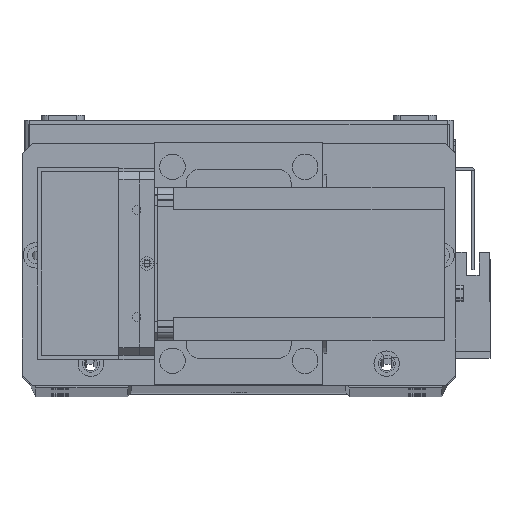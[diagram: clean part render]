
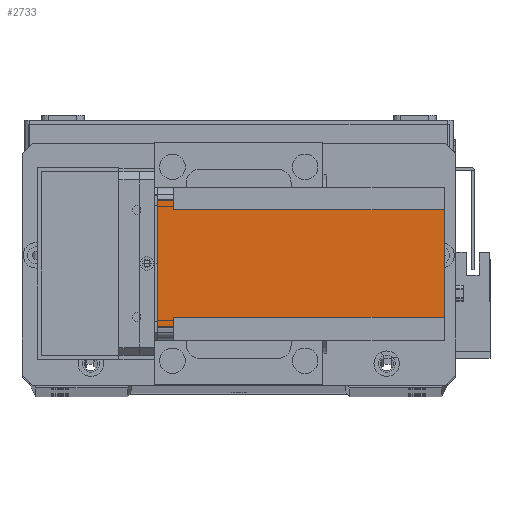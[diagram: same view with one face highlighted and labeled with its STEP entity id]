
A CAD part, top view. The second image highlights one B-rep face of the part: STEP entity #2733.
In plain terms, the highlighted planar face has unit normal (0, 0, 1) as drawn and (-1, 0, 0) by its records, which use the part's own axes.
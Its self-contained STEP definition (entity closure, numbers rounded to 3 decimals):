
#254 = VERTEX_POINT ( 'NONE', #2663 ) ;
#957 = ORIENTED_EDGE ( 'NONE', *, *, #25388, .T. ) ;
#1040 = VERTEX_POINT ( 'NONE', #31381 ) ;
#2053 = VECTOR ( 'NONE', #30379, 1000. ) ;
#2663 = CARTESIAN_POINT ( 'NONE',  ( 0., 5., -6.5 ) ) ;
#2733 = ADVANCED_FACE ( 'NONE', ( #21925 ), #19359, .T. ) ;
#2895 = CARTESIAN_POINT ( 'NONE',  ( 0., 51., -112.5 ) ) ;
#3967 = CARTESIAN_POINT ( 'NONE',  ( 0., 9., -112.5 ) ) ;
#4659 = VERTEX_POINT ( 'NONE', #26889 ) ;
#4739 = CARTESIAN_POINT ( 'NONE',  ( 0., 5., -112.5 ) ) ;
#5188 = LINE ( 'NONE', #23424, #23093 ) ;
#5243 = CARTESIAN_POINT ( 'NONE',  ( 0., 51., -112.5 ) ) ;
#5724 = EDGE_CURVE ( 'NONE', #8991, #15101, #12102, .T. ) ;
#5739 = ORIENTED_EDGE ( 'NONE', *, *, #29471, .T. ) ;
#6128 = CARTESIAN_POINT ( 'NONE',  ( 0., 51., -6.5 ) ) ;
#6863 = EDGE_LOOP ( 'NONE', ( #22458, #957, #7349, #5739, #14564, #26001, #7919, #25024 ) ) ;
#7054 = LINE ( 'NONE', #2895, #26565 ) ;
#7349 = ORIENTED_EDGE ( 'NONE', *, *, #5724, .F. ) ;
#7627 = CARTESIAN_POINT ( 'NONE',  ( 0., 55., 0. ) ) ;
#7798 = VECTOR ( 'NONE', #28969, 1000. ) ;
#7919 = ORIENTED_EDGE ( 'NONE', *, *, #22104, .T. ) ;
#8747 = EDGE_CURVE ( 'NONE', #4659, #27561, #31425, .T. ) ;
#8991 = VERTEX_POINT ( 'NONE', #7627 ) ;
#10312 = EDGE_CURVE ( 'NONE', #16548, #31336, #7054, .T. ) ;
#12102 = LINE ( 'NONE', #14278, #18082 ) ;
#13044 = DIRECTION ( 'NONE',  ( 0., 0., -1. ) ) ;
#13296 = DIRECTION ( 'NONE',  ( 0., -1., 0. ) ) ;
#14278 = CARTESIAN_POINT ( 'NONE',  ( 0., 0., 0. ) ) ;
#14564 = ORIENTED_EDGE ( 'NONE', *, *, #18689, .F. ) ;
#14595 = LINE ( 'NONE', #26383, #7798 ) ;
#15101 = VERTEX_POINT ( 'NONE', #27474 ) ;
#15640 = LINE ( 'NONE', #32940, #2053 ) ;
#16548 = VERTEX_POINT ( 'NONE', #5243 ) ;
#16861 = DIRECTION ( 'NONE',  ( 0., -1., 0. ) ) ;
#18029 = CARTESIAN_POINT ( 'NONE',  ( 0., 55., -112.5 ) ) ;
#18082 = VECTOR ( 'NONE', #21924, 1000. ) ;
#18689 = EDGE_CURVE ( 'NONE', #31336, #1040, #14595, .T. ) ;
#18939 = LINE ( 'NONE', #4739, #32433 ) ;
#19359 = PLANE ( 'NONE',  #21182 ) ;
#20703 = EDGE_CURVE ( 'NONE', #254, #4659, #15640, .T. ) ;
#20725 = DIRECTION ( 'NONE',  ( 0., 0., 1. ) ) ;
#21182 = AXIS2_PLACEMENT_3D ( 'NONE', #29565, #32127, #16861 ) ;
#21470 = LINE ( 'NONE', #18029, #28228 ) ;
#21741 = CARTESIAN_POINT ( 'NONE',  ( 0., 9., -112.5 ) ) ;
#21924 = DIRECTION ( 'NONE',  ( 0., -1., 0. ) ) ;
#21925 = FACE_OUTER_BOUND ( 'NONE', #6863, .T. ) ;
#22104 = EDGE_CURVE ( 'NONE', #16548, #27561, #5188, .T. ) ;
#22458 = ORIENTED_EDGE ( 'NONE', *, *, #20703, .F. ) ;
#23093 = VECTOR ( 'NONE', #13296, 1000. ) ;
#23424 = CARTESIAN_POINT ( 'NONE',  ( 0., 0., -112.5 ) ) ;
#23843 = VECTOR ( 'NONE', #26910, 1000. ) ;
#24973 = DIRECTION ( 'NONE',  ( 0., 0., 1. ) ) ;
#25024 = ORIENTED_EDGE ( 'NONE', *, *, #8747, .F. ) ;
#25388 = EDGE_CURVE ( 'NONE', #254, #15101, #18939, .T. ) ;
#26001 = ORIENTED_EDGE ( 'NONE', *, *, #10312, .F. ) ;
#26383 = CARTESIAN_POINT ( 'NONE',  ( 0., 60., -6.5 ) ) ;
#26565 = VECTOR ( 'NONE', #20725, 1000. ) ;
#26889 = CARTESIAN_POINT ( 'NONE',  ( 0., 9., -6.5 ) ) ;
#26910 = DIRECTION ( 'NONE',  ( 0., 0., -1. ) ) ;
#27474 = CARTESIAN_POINT ( 'NONE',  ( 0., 5., 0. ) ) ;
#27561 = VERTEX_POINT ( 'NONE', #21741 ) ;
#28228 = VECTOR ( 'NONE', #13044, 1000. ) ;
#28969 = DIRECTION ( 'NONE',  ( 0., 1., 0. ) ) ;
#29471 = EDGE_CURVE ( 'NONE', #8991, #1040, #21470, .T. ) ;
#29565 = CARTESIAN_POINT ( 'NONE',  ( 0., 0., -112.5 ) ) ;
#30379 = DIRECTION ( 'NONE',  ( 0., 1., 0. ) ) ;
#31336 = VERTEX_POINT ( 'NONE', #6128 ) ;
#31381 = CARTESIAN_POINT ( 'NONE',  ( 0., 55., -6.5 ) ) ;
#31425 = LINE ( 'NONE', #3967, #23843 ) ;
#32127 = DIRECTION ( 'NONE',  ( -1., 0., 0. ) ) ;
#32433 = VECTOR ( 'NONE', #24973, 1000. ) ;
#32940 = CARTESIAN_POINT ( 'NONE',  ( 0., 0., -6.5 ) ) ;
